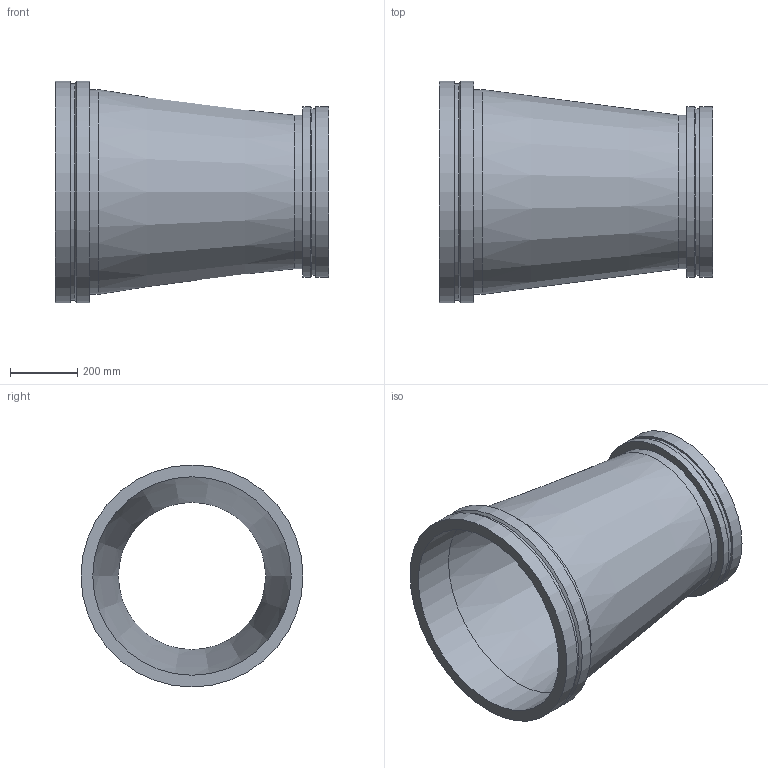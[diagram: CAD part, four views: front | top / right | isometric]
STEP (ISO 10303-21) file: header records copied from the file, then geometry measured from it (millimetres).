
FILE_DESCRIPTION(/* description */ ('VIC REDUCER CONCENTRIC No W50 VR','CAx-IF Rec.Pracs.---Representation and Presentation of Product Manufacturing Information (PMI)---4.0---2014-10-13'),/* implementation_level */ '2;1');
FILE_NAME(/* name */ 'C:\Users\kkamble\AppData\Roaming\Autodesk\ApplicationPlugins\Back Up\Victaulic_Vic-Ring_Reducer Concentric_No W50 VR (AGR)\Victaulic_Vic-Ring_Reducer Concentric_No W50 VR (AGR)_24.0x18.0 (600x450).stp',/* time_stamp */ '2020-09-10T11:45:44+05:00',/* author */ ('cps_temp'),/* organization */ ('Victaulic'),/* preprocessor_version */ 'ST-DEVELOPER v17.2',/* originating_system */ 'Autodesk Inventor 2019',/* authorisation */ '');
FILE_SCHEMA (('AP242_MANAGED_MODEL_BASED_3D_ENGINEERING_MIM_LF { 1 0 10303 442 1 1 4 }'));
Length unit declared in the file: inch
Products named in the file (1): W50 VR-24.0x18.0
Bounding box: 812.8 x 660.4 x 660.4 mm (x, y, z)
Volume: 20492611 mm3; surface area: 2977085.7 mm2
Topology: 1 solids, 1 shells, 20 faces, 54 edges, 40 vertices
Faces by surface type: cylinder 10, plane 6, cone 4
Full cylindrical faces by diameter (mm): 438.15 x1, 457.2 x1, 495.3 x1, 508 x2, 590.55 x1, 609.6 x1, 645.922 x1, 660.4 x2
Entity records: 830 total; most frequent: DIRECTION 162, CARTESIAN_POINT 132, ORIENTED_EDGE 108, AXIS2_PLACEMENT_3D 74, EDGE_CURVE 54, CIRCLE 40, VERTEX_POINT 40, EDGE_LOOP 26
